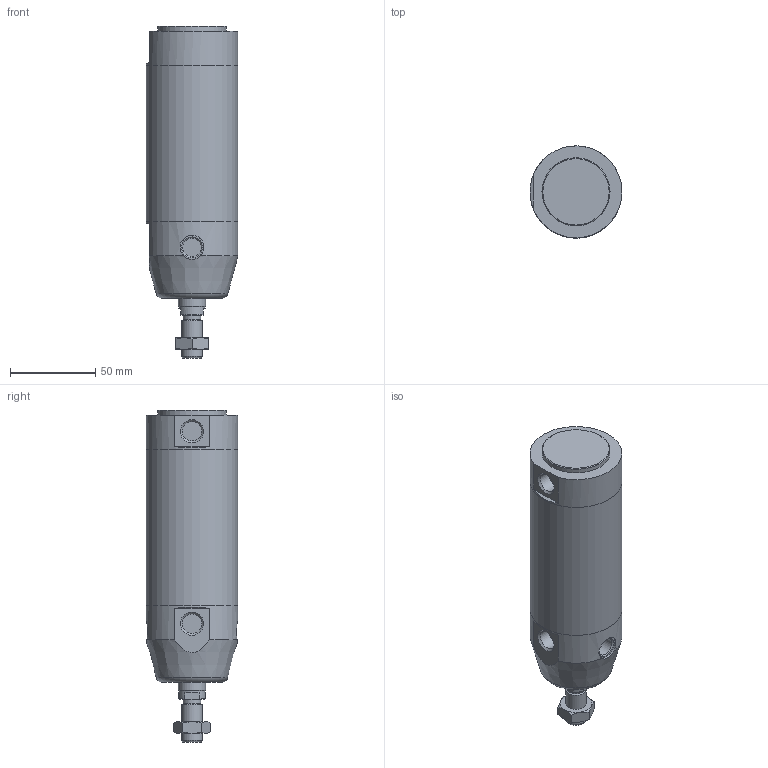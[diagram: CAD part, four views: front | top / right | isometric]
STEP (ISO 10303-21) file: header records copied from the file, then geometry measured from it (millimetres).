
FILE_DESCRIPTION(/* description */ (''),/* implementation_level */ '2;1');
FILE_NAME(/* name */ 'I:\Area Tecnica\Documenti\A-Manieri\_Inventor\12X\12X#E_###_####_#_#\12XAE_050_0050_#_#.stp',/* time_stamp */ '2015-05-08T13:40:12+02:00',/* author */ ('maniean1'),/* organization */ ('Pneumax S.p.A.'),/* preprocessor_version */ 'ST-DEVELOPER v15.2',/* originating_system */ 'Autodesk Inventor 2014',/* authorisation */ '');
FILE_SCHEMA (('AUTOMOTIVE_DESIGN { 1 0 10303 214 3 1 1 }'));
Length unit declared in the file: millimetre
Products named in the file (6): C1250_619-0050; 12X50_622; S12X50_0050; 12X_50_11; 12X50_611; 12XAE_050_0050_#_#
Bounding box: 54 x 54 x 195 mm (x, y, z)
Volume: 265088.7 mm3; surface area: 70433.2 mm2
Topology: 5 solids, 5 shells, 65 faces, 132 edges, 84 vertices
Faces by surface type: plane 33, cylinder 18, cone 13, torus 1
Full cylindrical faces by diameter (mm): 10.2 x1, 10.9 x2, 11.4 x2, 12 x2, 14 x1, 14.1 x2, 15.6 x1, 16 x1, 40 x1, 50 x2, 54 x3
Entity records: 1691 total; most frequent: CARTESIAN_POINT 368, DIRECTION 279, ORIENTED_EDGE 190, AXIS2_PLACEMENT_3D 129, EDGE_LOOP 108, EDGE_CURVE 95, VERTEX_POINT 77, ADVANCED_FACE 65
